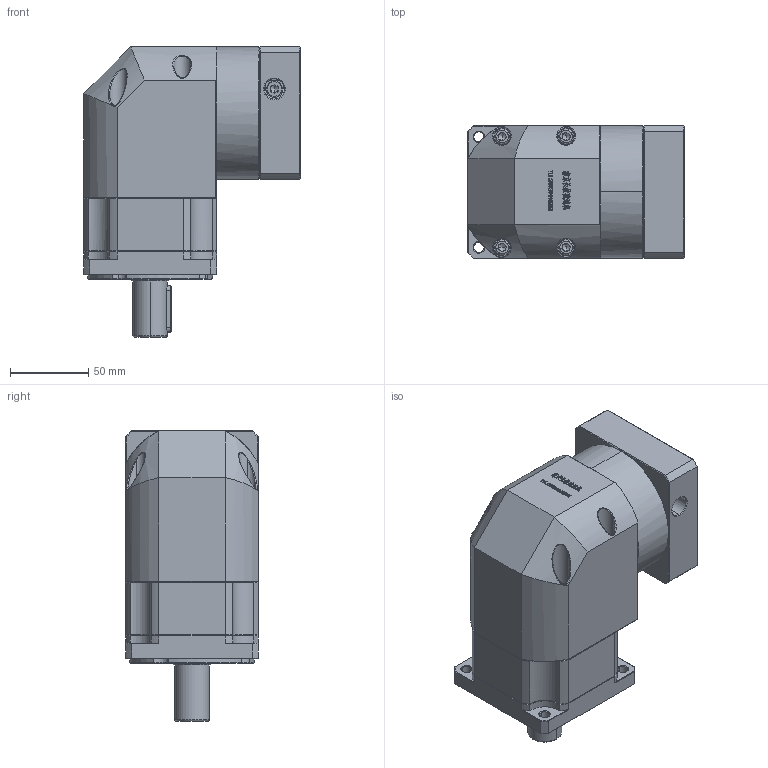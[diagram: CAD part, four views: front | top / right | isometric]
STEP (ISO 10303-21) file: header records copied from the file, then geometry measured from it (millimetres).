
FILE_DESCRIPTION (( 'STEP AP214' ), '1' );
FILE_NAME ('ZBR90-D22-L1-19-80-100-M6.STEP', '2022-05-07T14:48:02', ( '' ), ( 'Microsoft' ), 'SwSTEP 2.0', 'SolidWorks 2016', '' );
FILE_SCHEMA (( 'AUTOMOTIVE_DESIGN' ));
Length unit declared in the file: millimetre
Products named in the file (1): ZBR90-D22-L1-19-80-100-M6
Bounding box: 138.6 x 85 x 186 mm (x, y, z)
Volume: 1190832.7 mm3; surface area: 130712.2 mm2
Topology: 5 solids, 5 shells, 3009 faces, 7965 edges, 5092 vertices
Faces by surface type: plane 1575, bspline 603, cylinder 449, cone 356, torus 26
Entity records: 163336 total; most frequent: CARTESIAN_POINT 60547, ORIENTED_EDGE 15854, DIRECTION 12104, EDGE_CURVE 7927, VECTOR 5276, LINE 5276, VERTEX_POINT 5092, AXIS2_PLACEMENT_3D 3414
